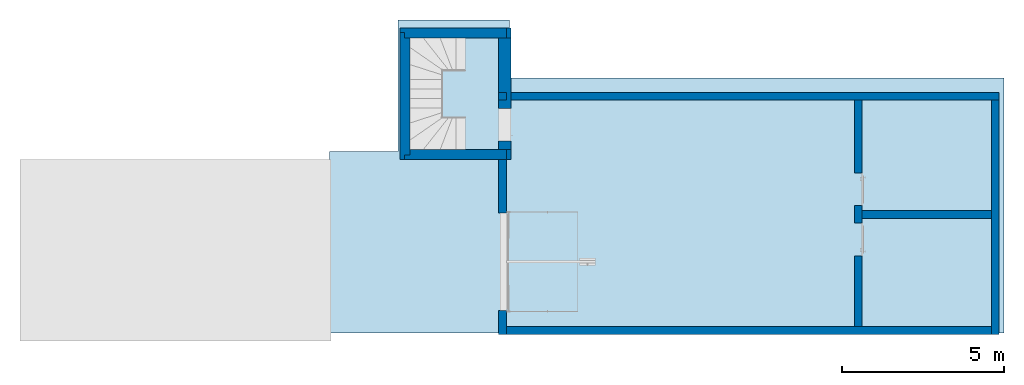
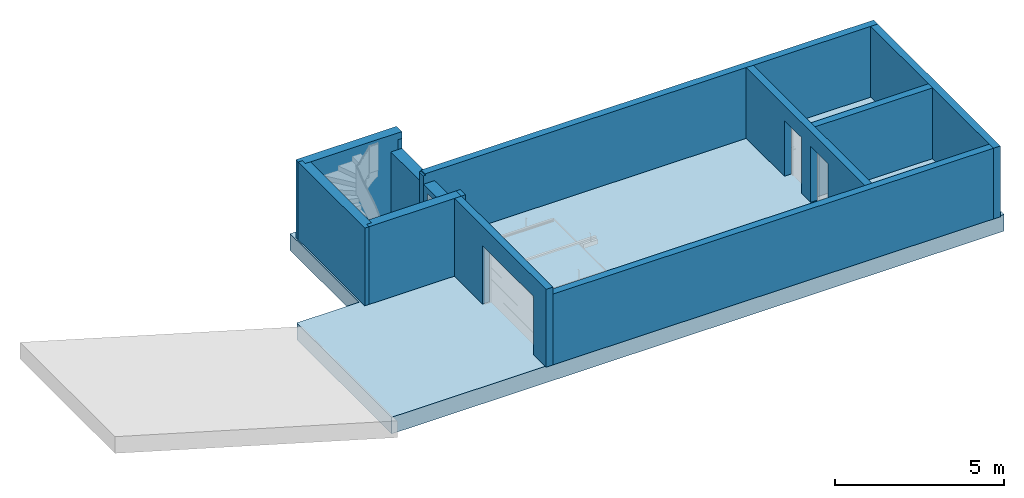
# One storey, part 1 of 5: 12 walls, 1 slab.
"""IFC4 building model written with IfcOpenShell, lengths in metres."""

from ifc_helpers import new_model, entity, si_unit, converted_unit, derived_unit, direction, frame, origin_with_axes, place, context, subcontext, project, spatial, triangles, material, constituent, constituent_set, type_object, element, save


model = new_model("IFC4")

# Units and contexts
model_context = context("Model", 3, precision=1e-05, world=origin_with_axes(), true_north=direction((-0.526213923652, 0.850352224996)))
body_context = subcontext(model_context, "Body", "Model", "MODEL_VIEW")
ifc_project = project(units=[si_unit("LENGTHUNIT", "METRE"), si_unit("AREAUNIT", "SQUARE_METRE"), si_unit("VOLUMEUNIT", "CUBIC_METRE"), converted_unit("PLANEANGLEUNIT", "DEGREE", entity("IfcPlaneAngleMeasure", 0.0174532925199), si_unit("PLANEANGLEUNIT", "RADIAN"), dimensions=[0, 0, 0, 0, 0, 0, 0]), si_unit("SOLIDANGLEUNIT", "STERADIAN"), converted_unit("TIMEUNIT", "Year", entity("IfcTimeMeasure", 31556926.0), si_unit("TIMEUNIT", "SECOND"), dimensions=[0, 0, 1, 0, 0, 0, 0]), si_unit("MASSUNIT", "GRAM", prefix="KILO"), si_unit("THERMODYNAMICTEMPERATUREUNIT", "DEGREE_CELSIUS"), si_unit("LUMINOUSINTENSITYUNIT", "LUMEN"), si_unit("ENERGYUNIT", "JOULE", prefix="MEGA"), derived_unit("THERMALCONDUCTANCEUNIT", [(si_unit("POWERUNIT", "WATT"), 1), (si_unit("LENGTHUNIT", "METRE"), -1), (si_unit("THERMODYNAMICTEMPERATUREUNIT", "KELVIN"), -1)]), derived_unit("SPECIFICHEATCAPACITYUNIT", [(si_unit("ENERGYUNIT", "JOULE"), 1), (si_unit("MASSUNIT", "GRAM", prefix="KILO"), -1), (si_unit("THERMODYNAMICTEMPERATUREUNIT", "KELVIN"), -1)]), derived_unit("MASSDENSITYUNIT", [(si_unit("MASSUNIT", "GRAM", prefix="KILO"), 1), (si_unit("VOLUMEUNIT", "CUBIC_METRE"), -1)])], contexts=[model_context])

# Site, building, storey
site_placement = place(None, origin_with_axes())
site = spatial("IfcSite", under=ifc_project, at=site_placement, Name="Gelände", CompositionType="ELEMENT")
building_placement = place(site_placement, origin_with_axes())
building = spatial("IfcBuilding", under=site, at=building_placement, Name="Haus vom Nikolaus", CompositionType="ELEMENT")
storey_placement = place(building_placement, frame((0.0, 0.0, -2.8), z_axis=(0.0, 0.0, 1.0), x_axis=(1.0, 0.0, 0.0)))
storey = spatial("IfcBuildingStorey", under=building, at=storey_placement, Name="-1. Geschoss", CompositionType="ELEMENT", Elevation=-2.8)

# Slab
ifc_material_1 = material(Name="Beton, Stahlbeton C20/25")
slab_type = type_object("IfcSlabType", Name="Beton, Stahlbeton C20/25 600", PredefinedType="BASESLAB")
slab_placement = place(storey_placement, frame((15.629407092, 7.92660137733, 0.0), z_axis=(0.0, 0.0, 1.0), x_axis=(1.0, 0.0, 0.0)))
element("IfcSlab", 1, at=slab_placement, inside=storey, type_object=slab_type, material=ifc_material_1, Name="Decke-001", PredefinedType="BASESLAB", context=body_context, shape_type="Tessellation", body=[
    triangles([(-15.3, 0.0, -0.6), (0.0, 0.0, 0.0), (0.0, 0.0, -0.6), (-15.3, 0.0, 0.0), (0.0, -7.88, 0.0), (0.0, -7.88, -0.6), (-18.735, -2.275, -0.6), (-18.735, 1.795, -0.6), (-20.86, -7.88, -0.6), (-20.86, -2.275, -0.6), (-15.3, 1.795, -0.6), (-15.3, 1.795, 0.0), (-18.735, 1.795, 0.0), (-18.735, -2.275, 0.0), (-20.86, -7.88, 0.0), (-20.86, -2.275, 0.0)], [[1, 2, 3], [1, 4, 2], [3, 5, 6], [3, 2, 5], [7, 8, 1], [6, 9, 1], [6, 1, 3], [7, 1, 9], [10, 7, 9], [11, 1, 8], [11, 4, 1], [11, 12, 4], [13, 14, 4], [4, 5, 2], [13, 4, 12], [15, 14, 16], [15, 4, 14], [4, 15, 5], [6, 15, 9], [6, 5, 15], [9, 16, 10], [9, 15, 16], [10, 14, 7], [10, 16, 14], [7, 13, 8], [7, 14, 13], [8, 12, 11], [8, 13, 12]], closed=True),
])

# Space
space_1_placement = place(storey_placement, frame((4.50039341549, 5.40483205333, 0.0), z_axis=(0.0, 0.0, 1.0), x_axis=(-1.0, 0.0, 0.0)))
space_1 = spatial("IfcSpace", under=storey, at=space_1_placement, Name="R-016", CompositionType="ELEMENT")

# Walls
ifc_material_2 = material(Name="Beton, WU-Beton")
wall_type_1 = type_object("IfcWallType", Name="Beton, WU-Beton 240", PredefinedType="NOTDEFINED")
wall_1_placement = place(space_1_placement, frame((4.26039582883, -0.315, 0.0), z_axis=(0.0, 0.0, 1.0), x_axis=(0.0, 1.0, 0.0)))
element("IfcWall", 2, at=wall_1_placement, inside=space_1, type_object=wall_type_1, material=ifc_material_2, Name="Wand-004", context=body_context, shape_type="Tessellation", body=[
    triangles([(5.72, 0.0, 2.8), (5.72, 0.0, 0.0), (4.98, 0.0, 2.1), (1.97, 0.0, 2.1), (4.98, 0.0, 0.0), (0.315, 0.0, 2.8), (0.315, 0.0, 0.0), (1.97, 0.0, 0.0), (5.72, -0.24, 0.0), (4.98, -0.24, 0.0), (4.98, -0.24, 2.1), (1.97, -0.24, 2.1), (1.97, -0.24, 0.0), (0.315, -0.24, 0.0), (0.315, -0.24, 2.8), (5.72, -0.24, 2.8)], [[1, 2, 3], [4, 1, 3], [3, 2, 5], [6, 1, 4], [7, 6, 4], [7, 4, 8], [5, 9, 10], [5, 2, 9], [5, 11, 3], [5, 10, 11], [11, 4, 3], [4, 11, 12], [4, 13, 8], [4, 12, 13], [13, 7, 8], [13, 14, 7], [6, 14, 15], [6, 7, 14], [15, 1, 6], [15, 16, 1], [9, 1, 16], [9, 2, 1], [15, 14, 12], [16, 15, 12], [9, 16, 11], [16, 12, 11], [9, 11, 10], [13, 12, 14]], closed=True),
])
ifc_constituent_1 = constituent(ifc_material_2, Name="Component 1")
ifc_constituent_set_1 = constituent_set(constituents=[ifc_constituent_1], Name="WA | Stahlbeton 24cm")
wall_type_2 = type_object("IfcWallType", Name="WA | Stahlbeton 24cm 240", PredefinedType="NOTDEFINED")
wall_2_placement = place(space_1_placement, frame((4.26039582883, 5.165, 0.0), z_axis=(0.0, 0.0, 1.0), x_axis=(-1.0, 0.0, 0.0)))
element("IfcWall", 3, at=wall_2_placement, inside=space_1, type_object=wall_type_2, material=ifc_constituent_set_1, Name="Wand-005", context=body_context, shape_type="Tessellation", body=[
    triangles([(0.0, 0.0, 2.55), (15.0, -0.24, 2.55), (15.0, 0.0, 2.55), (0.0, -0.24, 2.55), (15.0, -0.24, 0.0), (15.0, 0.0, 0.0), (0.0, 0.0, 0.0), (0.0, -0.24, 0.0)], [[1, 2, 3], [1, 4, 2], [5, 3, 2], [5, 6, 3], [7, 3, 6], [7, 1, 3], [1, 8, 4], [1, 7, 8], [4, 5, 2], [4, 8, 5], [8, 6, 5], [8, 7, 6]], closed=True),
])

# Space
space_2_placement = place(storey_placement, frame((-2.44592905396e-06, 7.47983226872, 0.0), z_axis=(0.0, 0.0, 1.0), x_axis=(0.0, -1.0, 0.0)))
space_2 = spatial("IfcSpace", under=storey, at=space_2_placement, Name="R-024", CompositionType="ELEMENT")

# Walls
ifc_constituent_2 = constituent(ifc_material_2, Name="Component 1")
ifc_constituent_set_2 = constituent_set(constituents=[ifc_constituent_2], Name="WA | Stahlbeton 24cm")
wall_3_placement = place(space_2_placement, frame((0.240000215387, 3.25957207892e-08, 0.0), z_axis=(0.0, 0.0, 1.0), x_axis=(0.0, 1.0, 0.0)))
element("IfcWall", 4, at=wall_3_placement, inside=space_2, type_object=wall_type_2, material=ifc_constituent_set_2, Name="Wand-004", context=body_context, shape_type="Tessellation", body=[
    triangles([(0.0, 0.24, 0.0), (0.24, 0.24, 2.2), (0.24, 0.24, 0.0), (0.38, 0.24, 2.2), (0.0646155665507, 0.240000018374, 2.55), (15.48, 0.24, 2.55), (0.0646155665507, 0.240000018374, 2.5), (15.48, 0.24, 0.0), (0.38, 0.24, 0.0), (0.0, 0.240000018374, 2.5), (0.0, 1.83738855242e-08, 2.5), (0.0646155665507, 1.83738855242e-08, 2.5), (0.0646155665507, 1.83738855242e-08, 2.55), (15.48, 0.0, 2.55), (15.48, 0.0, 0.0), (0.38, 0.0, 0.0), (0.38, 0.0, 2.2), (0.24, 0.0, 2.2), (0.24, 0.0, 0.0), (0.0, 0.0, 0.0)], [[1, 2, 3], [4, 5, 6], [2, 7, 4], [4, 8, 9], [2, 1, 10], [8, 4, 6], [7, 2, 10], [5, 4, 7], [11, 7, 10], [11, 12, 7], [7, 13, 5], [7, 12, 13], [6, 13, 14], [13, 6, 5], [15, 6, 14], [15, 8, 6], [16, 8, 15], [16, 9, 8], [4, 16, 17], [4, 9, 16], [2, 17, 18], [2, 4, 17], [3, 18, 19], [3, 2, 18], [3, 20, 1], [3, 19, 20], [1, 11, 10], [1, 20, 11], [17, 13, 12], [18, 20, 19], [18, 11, 20], [15, 17, 16], [11, 18, 12], [14, 17, 15], [17, 12, 18], [13, 17, 14]], closed=True),
])
ifc_constituent_3 = constituent(ifc_material_2, Name="Component 1")
ifc_constituent_set_3 = constituent_set(constituents=[ifc_constituent_3], Name="WA | Stahlbeton 24cm")
wall_4_placement = place(space_2_placement, frame((3.89250021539, 11.2400000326, 0.0), z_axis=(0.0, 0.0, 1.0), x_axis=(0.0, 1.0, 0.0)))
element("IfcWall", 5, at=wall_4_placement, inside=space_2, type_object=wall_type_2, material=ifc_constituent_set_3, Name="Wand-007", context=body_context, shape_type="Tessellation", body=[
    triangles([(0.0, 0.0, 0.0), (4.0, 0.24, 0.0), (4.0, 0.0, 0.0), (0.0, 0.24, 0.0), (4.0, 0.24, 2.55), (4.0, 0.0, 2.55), (0.0, 0.0, 2.55), (0.0, 0.24, 2.55)], [[1, 2, 3], [1, 4, 2], [5, 3, 2], [5, 6, 3], [7, 3, 6], [7, 1, 3], [1, 8, 4], [1, 7, 8], [4, 5, 2], [4, 8, 5], [8, 6, 5], [8, 7, 6]], closed=True),
])
ifc_constituent_4 = constituent(ifc_material_2, Name="Component 1")
ifc_constituent_set_4 = constituent_set(constituents=[ifc_constituent_4], Name="WA | Stahlbeton 24cm")
wall_5_placement = place(space_2_placement, frame((0.240000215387, 15.2400000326, 0.0), z_axis=(0.0, 0.0, 1.0), x_axis=(1.0, 0.0, 0.0)))
element("IfcWall", 6, at=wall_5_placement, inside=space_2, type_object=wall_type_2, material=ifc_constituent_set_4, Name="Wand-004", context=body_context, shape_type="Tessellation", body=[
    triangles([(7.24, 0.0, 0.0), (0.0, 0.24, 0.0), (7.24, 0.24, 0.0), (0.0, 0.0, 0.0), (0.0, 0.24, 2.55), (7.24, 0.24, 2.55), (7.24, 0.0, 2.55), (0.0, 0.0, 2.55)], [[1, 2, 3], [1, 4, 2], [3, 5, 6], [3, 2, 5], [7, 3, 6], [3, 7, 1], [7, 4, 1], [7, 8, 4], [4, 5, 2], [4, 8, 5], [6, 8, 7], [6, 5, 8]], closed=True),
])
ifc_constituent_5 = constituent(ifc_material_2, Name="Component 1")
ifc_constituent_set_5 = constituent_set(constituents=[ifc_constituent_5], Name="WA | Stahlbeton 24cm")
wall_6_placement = place(space_2_placement, frame((0.240000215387, 11.2400000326, 0.0), z_axis=(0.0, 0.0, 1.0), x_axis=(1.0, 0.0, 0.0)))
element("IfcWall", 7, at=wall_6_placement, inside=space_2, type_object=wall_type_2, material=ifc_constituent_set_5, Name="Wand-006", context=body_context, shape_type="Tessellation", body=[
    triangles([(3.8025, 0.0, 2.01), (7.0, 0.0, 2.55), (4.8125, 0.0, 2.01), (7.0, 0.0, 0.0), (3.2625, 0.0, 0.0), (3.2625, 0.0, 2.01), (0.0, 0.0, 2.55), (3.8025, 0.0, 0.0), (2.2525, 0.0, 2.01), (0.0, 0.0, 0.0), (2.2525, 0.0, 0.0), (4.8125, 0.0, 0.0), (4.8125, -0.24, 0.0), (4.8125, -0.24, 2.01), (3.8025, -0.24, 2.01), (3.8025, -0.24, 0.0), (3.2625, -0.24, 0.0), (3.2625, -0.24, 2.01), (2.2525, -0.24, 2.01), (2.2525, -0.24, 0.0), (0.0, -0.24, 0.0), (0.0, -0.24, 2.55), (7.0, -0.24, 2.55), (7.0, -0.24, 0.0)], [[1, 2, 3], [4, 3, 2], [5, 6, 1], [7, 2, 1], [5, 1, 8], [7, 6, 9], [7, 1, 6], [7, 9, 10], [11, 10, 9], [3, 4, 12], [13, 3, 12], [13, 14, 3], [14, 1, 3], [14, 15, 1], [15, 8, 1], [15, 16, 8], [17, 8, 16], [17, 5, 8], [18, 5, 17], [18, 6, 5], [19, 6, 18], [19, 9, 6], [20, 9, 19], [20, 11, 9], [10, 20, 21], [10, 11, 20], [21, 7, 10], [21, 22, 7], [23, 7, 22], [23, 2, 7], [23, 4, 2], [4, 23, 24], [4, 13, 12], [4, 24, 13], [15, 18, 16], [18, 22, 19], [24, 23, 14], [24, 14, 13], [19, 21, 20], [21, 19, 22], [22, 18, 23], [16, 18, 17], [15, 14, 23], [18, 15, 23]], closed=True),
])
ifc_material_3 = material(Name="Dämmung, hart XPS")
ifc_constituent_6 = constituent(ifc_material_3, Name="Component 1")
ifc_constituent_7 = constituent(ifc_material_2, Name="Component 2")
ifc_constituent_set_6 = constituent_set(constituents=[ifc_constituent_6, ifc_constituent_7], Name="WA |\xa0StB Kellerwand + WD")
wall_type_3 = type_object("IfcWallType", Name="WA |\xa0StB Kellerwand + WD 380", PredefinedType="NOTDEFINED")
wall_7_placement = place(space_2_placement, frame((-1.67999978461, 0.240000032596, 0.0), z_axis=(0.0, 0.0, 1.0), x_axis=(1.0, 0.0, 0.0)))
element("IfcWall", 8, at=wall_7_placement, inside=space_2, type_object=wall_type_3, material=ifc_constituent_set_6, Name="Wand-003", context=body_context, shape_type="Tessellation", body=[
    triangles([(2.17, 0.14, 2.01), (3.615, 0.14, 2.2), (3.18, 0.14, 2.01), (3.615, 0.14, 0.0), (-0.175, 0.14, 2.2), (-0.175, 0.14, 0.0), (2.17, 0.14, 0.0), (3.18, 0.14, 0.0), (3.18, 0.09, 0.0), (3.18, 0.09, 2.01), (2.17, 0.09, 2.01), (2.17, 0.09, 0.0), (-0.175, 0.0, 0.0), (2.17, 0.0, 0.0), (-0.175, 0.0, 2.2), (3.615, 0.0, 2.2), (3.615, 0.0, 0.0), (3.18, 0.0, 0.0), (3.18, 0.0, 2.01), (2.17, 0.0, 2.01)], [[1, 2, 3], [4, 3, 2], [5, 1, 6], [5, 2, 1], [6, 1, 7], [3, 4, 8], [9, 3, 8], [9, 10, 3], [10, 1, 3], [10, 11, 1], [11, 7, 1], [11, 12, 7], [13, 12, 14], [6, 12, 13], [12, 6, 7], [15, 6, 13], [15, 5, 6], [16, 5, 15], [16, 2, 5], [4, 16, 17], [4, 2, 16], [17, 9, 4], [4, 9, 8], [18, 9, 17], [18, 10, 9], [18, 19, 10], [19, 11, 10], [19, 20, 11], [20, 12, 11], [20, 14, 12], [16, 15, 20], [20, 13, 14], [16, 20, 19], [17, 16, 19], [17, 19, 18], [20, 15, 13]], closed=True),
    triangles([(1.92, 0.0, 2.2), (3.44, 0.0, 2.2), (3.18, 0.0, 2.01), (3.44, 0.0, 0.0), (1.92, 0.0, 0.0), (2.17, 0.0, 2.01), (2.17, 0.0, 0.0), (3.18, 0.0, 0.0), (3.18, -0.24, 0.0), (3.18, -0.24, 2.01), (2.17, -0.24, 2.01), (2.17, -0.24, 0.0), (1.92, -0.24, 0.0), (1.92, -0.24, 2.2), (3.44, -0.24, 2.2), (3.44, -0.24, 0.0)], [[1, 2, 3], [4, 3, 2], [5, 1, 6], [1, 3, 6], [5, 6, 7], [3, 4, 8], [9, 3, 8], [9, 10, 3], [10, 6, 3], [10, 11, 6], [11, 7, 6], [11, 12, 7], [5, 12, 13], [12, 5, 7], [13, 1, 5], [13, 14, 1], [15, 1, 14], [1, 15, 2], [16, 2, 15], [16, 4, 2], [16, 8, 4], [8, 16, 9], [15, 14, 10], [16, 15, 10], [16, 10, 9], [11, 13, 12], [11, 10, 14], [13, 11, 14]], closed=True),
    triangles([(1.68, 0.0, 2.2), (0.0, -0.24, 2.2), (1.68, -0.24, 2.2), (0.0, 0.0, 2.2), (0.0, -0.24, 0.0), (1.68, -0.24, 0.0), (1.68, 0.0, 0.0), (0.0, 0.0, 0.0)], [[1, 2, 3], [1, 4, 2], [3, 5, 6], [3, 2, 5], [6, 1, 3], [6, 7, 1], [7, 4, 1], [7, 8, 4], [5, 4, 8], [5, 2, 4], [6, 8, 7], [6, 5, 8]], closed=True),
])
ifc_constituent_8 = constituent(ifc_material_2, Name="Component 1")
ifc_constituent_9 = constituent(ifc_material_3, Name="Component 2")
ifc_constituent_set_7 = constituent_set(constituents=[ifc_constituent_8, ifc_constituent_9], Name="WA |\xa0StB Kellerwand 17 + WD")
wall_type_4 = type_object("IfcWallType", Name="WA |\xa0StB Kellerwand 17 + WD 315", PredefinedType="NOTDEFINED")
wall_8_placement = place(space_2_placement, frame((1.76000021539, -2.7399999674, 0.0), z_axis=(0.0, 0.0, 1.0), x_axis=(0.0, 1.0, 0.0)))
element("IfcWall", 9, at=wall_8_placement, inside=space_2, type_object=wall_type_4, material=ifc_constituent_set_7, Name="Wand-001", context=body_context, shape_type="Tessellation", body=[
    triangles([(0.0, -0.175, 2.8), (2.98, 0.0, 2.8), (0.0, 0.0, 2.8), (2.98, -0.175, 2.8), (2.98, 0.0, 2.2), (2.98, -0.175, 2.2), (0.0, 0.0, 0.0), (2.98, 0.0, 0.0), (0.0, -0.175, 0.0), (2.98, -0.175, 0.0)], [[1, 2, 3], [2, 1, 4], [4, 5, 2], [4, 6, 5], [3, 5, 7], [7, 5, 8], [5, 3, 2], [1, 7, 9], [1, 3, 7], [9, 6, 1], [1, 6, 4], [10, 6, 9], [10, 5, 6], [10, 8, 5], [7, 10, 9], [7, 8, 10]], closed=True),
    triangles([(-0.175, -0.175, 2.8), (2.98, -0.315, 2.8), (2.98, -0.175, 2.8), (-0.175, -0.315, 2.8), (2.98, -0.175, 0.0), (2.98, -0.315, 0.0), (-0.175, -0.175, 0.0), (-0.175, -0.315, 0.0)], [[1, 2, 3], [1, 4, 2], [2, 5, 3], [2, 6, 5], [7, 3, 5], [7, 1, 3], [4, 7, 8], [4, 1, 7], [4, 6, 2], [4, 8, 6], [8, 5, 6], [8, 7, 5]], closed=True),
])

# Space
space_3_placement = place(storey_placement, frame((-3.05500241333, 5.40483205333, 0.0), z_axis=(0.0, 0.0, 1.0), x_axis=(1.0, 0.0, 0.0)))
space_3 = spatial("IfcSpace", under=storey, at=space_3_placement, Name="R-023", CompositionType="ELEMENT")

# Walls
ifc_constituent_10 = constituent(ifc_material_3, Name="Component 1")
ifc_constituent_11 = constituent(ifc_material_2, Name="Component 2")
ifc_constituent_set_8 = constituent_set(constituents=[ifc_constituent_10, ifc_constituent_11], Name="WA |\xa0StB Kellerwand 17 + WD")
wall_9_placement = place(space_3_placement, frame((0.315, 3.755, 0.0), z_axis=(0.0, 0.0, 1.0), x_axis=(1.0, 0.0, 0.0)))
element("IfcWall", 10, at=wall_9_placement, inside=space_3, type_object=wall_type_4, material=ifc_constituent_set_8, Name="Wand-001", context=body_context, shape_type="Tessellation", body=[
    triangles([(3.12, 0.175, 2.8), (3.12, 0.315, 2.55), (3.12, 0.315, 2.8), (3.12, 0.175, 2.55), (2.98, 0.315, 2.55), (2.98, 0.175, 2.55), (-0.315, 0.315, 2.8), (-0.315, 0.315, 0.0), (2.98, 0.315, 0.0), (-0.315, 0.175, 2.8), (2.98, 0.175, 0.0), (-0.315, 0.175, 0.0)], [[1, 2, 3], [2, 1, 4], [4, 5, 2], [4, 6, 5], [2, 5, 3], [3, 5, 7], [8, 5, 9], [8, 7, 5], [10, 3, 7], [10, 1, 3], [11, 6, 12], [1, 10, 6], [1, 6, 4], [12, 6, 10], [6, 9, 5], [6, 11, 9], [12, 9, 11], [12, 8, 9], [12, 7, 8], [12, 10, 7]], closed=True),
    triangles([(3.12, 0.175, 2.8), (3.12, 0.0, 2.55), (3.12, 0.175, 2.55), (3.12, 0.0, 2.8), (2.98, 0.0, 2.55), (2.98, 0.175, 2.55), (-0.175, 0.175, 2.8), (2.98, 0.175, 2.2), (-0.175, 0.175, 0.0), (2.98, 0.175, 0.0), (-0.175, 0.0, 2.8), (2.98, 0.0, 2.2), (-0.175, 0.0, 0.0), (2.98, 0.0, 0.0)], [[1, 2, 3], [1, 4, 2], [5, 3, 2], [3, 5, 6], [3, 6, 1], [7, 8, 9], [9, 8, 10], [8, 7, 6], [1, 6, 7], [7, 4, 1], [7, 11, 4], [4, 11, 5], [4, 5, 2], [12, 11, 13], [11, 12, 5], [14, 12, 13], [5, 8, 6], [5, 12, 8], [14, 8, 12], [14, 10, 8], [9, 14, 13], [9, 10, 14], [9, 11, 7], [9, 13, 11]], closed=True),
])
ifc_constituent_12 = constituent(ifc_material_3, Name="Component 1")
ifc_constituent_13 = constituent(ifc_material_2, Name="Component 2")
ifc_constituent_set_9 = constituent_set(constituents=[ifc_constituent_12, ifc_constituent_13], Name="WA |\xa0StB Kellerwand 17 + WD")
wall_10_placement = place(space_3_placement, frame((0.315, 0.315, 0.0), z_axis=(0.0, 0.0, 1.0), x_axis=(0.0, 1.0, 0.0)))
element("IfcWall", 11, at=wall_10_placement, inside=space_3, type_object=wall_type_4, material=ifc_constituent_set_9, Name="Wand-002", context=body_context, shape_type="Tessellation", body=[
    triangles([(-0.315, 0.175, 2.8), (3.615, 0.315, 2.8), (-0.315, 0.315, 2.8), (3.615, 0.175, 2.8), (3.615, 0.315, 0.0), (-0.315, 0.315, 0.0), (-0.315, 0.175, 0.0), (3.615, 0.175, 0.0)], [[1, 2, 3], [1, 4, 2], [3, 5, 6], [3, 2, 5], [6, 1, 3], [6, 7, 1], [7, 4, 1], [7, 8, 4], [5, 4, 8], [5, 2, 4], [6, 8, 7], [6, 5, 8]], closed=True),
    triangles([(-0.175, 0.0, 2.8), (3.44, 0.175, 2.8), (-0.175, 0.175, 2.8), (3.44, 0.0, 2.8), (3.44, 0.175, 0.0), (-0.175, 0.175, 0.0), (-0.175, 0.0, 0.0), (3.44, 0.0, 0.0)], [[1, 2, 3], [1, 4, 2], [3, 5, 6], [3, 2, 5], [6, 1, 3], [6, 7, 1], [7, 4, 1], [7, 8, 4], [5, 4, 8], [5, 2, 4], [6, 8, 7], [6, 5, 8]], closed=True),
])
wall_type_5 = type_object("IfcWallType", Name="Wandabschluss 2 22", PredefinedType="NOTDEFINED")
wall_11_placement = place(storey_placement, frame((0.309997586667, 5.71983205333, 0.0), z_axis=(0.0, 0.0, 1.0), x_axis=(1.0, 0.0, 0.0)))
element("IfcWall", 12, at=wall_11_placement, inside=storey, type_object=wall_type_5, material=ifc_material_3, Name="WandAbschl-013", context=body_context, shape_type="Tessellation", body=[
    triangles([(-0.07, 0.0, 2.8), (0.07, 0.0, 0.0), (-0.07, 0.0, 0.0), (0.07, 0.0, 2.8), (-0.07, -0.315, 0.0), (0.07, -0.315, 0.0), (-0.07, -0.315, 2.8), (0.07, -0.315, 2.8)], [[1, 2, 3], [1, 4, 2], [2, 5, 3], [5, 2, 6], [1, 5, 7], [1, 3, 5], [4, 7, 8], [4, 1, 7], [2, 8, 6], [2, 4, 8], [7, 6, 8], [7, 5, 6]], closed=True),
])
wall_12_placement = place(storey_placement, frame((0.309997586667, 9.15983205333, 0.0), z_axis=(0.0, 0.0, 1.0), x_axis=(1.0, 0.0, 0.0)))
element("IfcWall", 13, at=wall_12_placement, inside=storey, type_object=wall_type_5, material=ifc_material_3, Name="WandAbschl-017", context=body_context, shape_type="Tessellation", body=[
    triangles([(-0.07, 0.315, 2.55), (0.07, 0.315, 0.0), (-0.07, 0.315, 0.0), (0.07, 0.315, 2.55), (-0.07, 0.0, 0.0), (0.07, 0.0, 0.0), (-0.07, 0.0, 2.55), (0.07, 0.0, 2.55)], [[1, 2, 3], [1, 4, 2], [2, 5, 3], [5, 2, 6], [1, 5, 7], [1, 3, 5], [4, 7, 8], [4, 1, 7], [2, 8, 6], [2, 4, 8], [7, 6, 8], [7, 5, 6]], closed=True),
])

save(model, "model.ifc")
